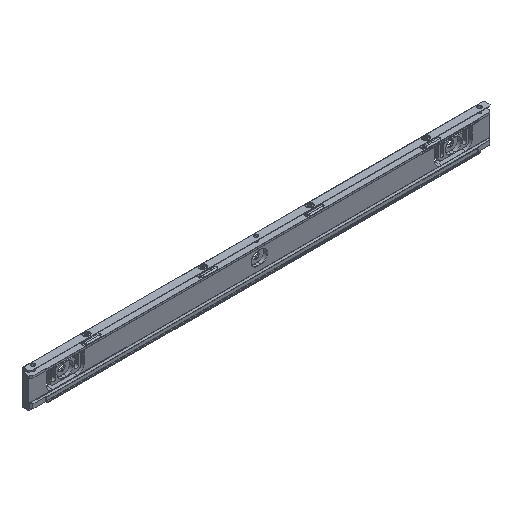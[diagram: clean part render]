
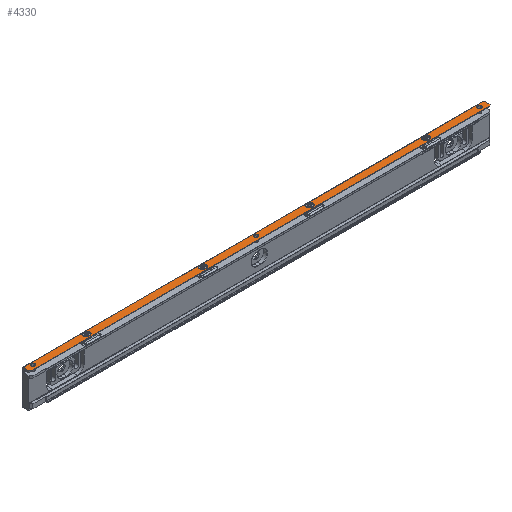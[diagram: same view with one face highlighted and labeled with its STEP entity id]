
A CAD part, isometric view. The second image highlights one B-rep face of the part: STEP entity #4330.
In plain terms, the highlighted planar face has unit normal (0, 0, 1).
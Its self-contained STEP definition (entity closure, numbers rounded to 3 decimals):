
#260=CARTESIAN_POINT('',(-17.266,8.917,
83.483));
#270=VERTEX_POINT('',#260);
#1080=CARTESIAN_POINT('',(-12.734,8.917,
83.483));
#1090=VERTEX_POINT('',#1080);
#1120=CARTESIAN_POINT('',(-15.,6.25,
83.483));
#1130=DIRECTION('',(0.,0.,-1.));
#1140=DIRECTION('',(-1.,0.,0.));
#1150=AXIS2_PLACEMENT_3D('',#1120,#1130,#1140);
#1160=CIRCLE('',#1150,3.5);
#1170=EDGE_CURVE('',#1090,#270,#1160,.T.);
#1470=CARTESIAN_POINT('',(92.734,8.917,
83.483));
#1480=VERTEX_POINT('',#1470);
#2290=CARTESIAN_POINT('',(97.266,8.917,
83.483));
#2300=VERTEX_POINT('',#2290);
#2330=CARTESIAN_POINT('',(95.,6.25,
83.483));
#2340=DIRECTION('',(0.,0.,-1.));
#2350=DIRECTION('',(-1.,0.,0.));
#2360=AXIS2_PLACEMENT_3D('',#2330,#2340,#2350);
#2370=CIRCLE('',#2360,3.5);
#2380=EDGE_CURVE('',#2300,#1480,#2370,.T.);
#2850=CARTESIAN_POINT('',(-5.,10.,
83.483));
#2860=DIRECTION('',(0.,0.,1.));
#2870=DIRECTION('',(0.,1.,0.));
#2880=AXIS2_PLACEMENT_3D('',#2850,#2860,#2870);
#2890=PLANE('',#2880);
#2900=CARTESIAN_POINT('',(40.,6.,
83.483));
#2910=DIRECTION('',(0.,0.,1.));
#2920=DIRECTION('',(0.,1.,0.));
#2930=AXIS2_PLACEMENT_3D('',#2900,#2910,#2920);
#2940=CIRCLE('',#2930,1.9);
#2950=CARTESIAN_POINT('',(41.9,6.,
83.483));
#2960=VERTEX_POINT('',#2950);
#2970=CARTESIAN_POINT('',(38.1,6.,
83.483));
#2980=VERTEX_POINT('',#2970);
#2990=EDGE_CURVE('',#2960,#2980,#2940,.T.);
#3000=ORIENTED_EDGE('',*,*,#2990,.F.);
#3010=EDGE_CURVE('',#2980,#2960,#2940,.T.);
#3020=ORIENTED_EDGE('',*,*,#3010,.F.);
#3030=EDGE_LOOP('',(#3020,#3000));
#3040=FACE_BOUND('',#3030,.T.);
#3050=CARTESIAN_POINT('',(215.,6.25,
83.483));
#3060=DIRECTION('',(0.,0.,-1.));
#3070=DIRECTION('',(-1.,0.,0.));
#3080=AXIS2_PLACEMENT_3D('',#3050,#3060,#3070);
#3090=CIRCLE('',#3080,3.5);
#3100=CARTESIAN_POINT('',(217.266,8.917,
83.483));
#3110=VERTEX_POINT('',#3100);
#3120=CARTESIAN_POINT('',(212.734,8.917,
83.483));
#3130=VERTEX_POINT('',#3120);
#3140=EDGE_CURVE('',#3110,#3130,#3090,.T.);
#3150=ORIENTED_EDGE('',*,*,#3140,.T.);
#3160=CARTESIAN_POINT('',(295.,8.917,83.483));
#3170=DIRECTION('',(-1.,0.,0.));
#3180=VECTOR('',#3170,1.);
#3190=LINE('',#3160,#3180);
#3200=CARTESIAN_POINT('',(277.5,8.917,83.483));
#3210=VERTEX_POINT('',#3200);
#3220=EDGE_CURVE('',#3210,#3110,#3190,.T.);
#3230=ORIENTED_EDGE('',*,*,#3220,.T.);
#3240=CARTESIAN_POINT('',(277.5,8.463,83.483));
#3250=DIRECTION('',(0.,1.,0.));
#3260=VECTOR('',#3250,1.);
#3270=LINE('',#3240,#3260);
#3280=CARTESIAN_POINT('',(277.5,2.75,83.483));
#3290=VERTEX_POINT('',#3280);
#3300=EDGE_CURVE('',#3290,#3210,#3270,.T.);
#3310=ORIENTED_EDGE('',*,*,#3300,.T.);
#3320=CARTESIAN_POINT('',(283.212,8.462,
83.483));
#3330=DIRECTION('',(0.707,0.707,
0.));
#3340=VECTOR('',#3330,1.);
#3350=LINE('',#3320,#3340);
#3360=CARTESIAN_POINT('',(276.2,1.45,
83.483));
#3370=VERTEX_POINT('',#3360);
#3380=EDGE_CURVE('',#3370,#3290,#3350,.T.);
#3390=ORIENTED_EDGE('',*,*,#3380,.T.);
#3400=CARTESIAN_POINT('',(-80.,1.45,
83.483));
#3410=DIRECTION('',(1.,0.,0.));
#3420=VECTOR('',#3410,1.);
#3430=LINE('',#3400,#3420);
#3440=CARTESIAN_POINT('',(-196.2,1.45,
83.483));
#3450=VERTEX_POINT('',#3440);
#3460=EDGE_CURVE('',#3450,#3370,#3430,.T.);
#3470=ORIENTED_EDGE('',*,*,#3460,.T.);
#3480=CARTESIAN_POINT('',(-203.212,8.462,
83.483));
#3490=DIRECTION('',(-0.707,0.707,
0.));
#3500=VECTOR('',#3490,1.);
#3510=LINE('',#3480,#3500);
#3520=CARTESIAN_POINT('',(-197.5,2.75,
83.483));
#3530=VERTEX_POINT('',#3520);
#3540=EDGE_CURVE('',#3450,#3530,#3510,.T.);
#3550=ORIENTED_EDGE('',*,*,#3540,.F.);
#3560=CARTESIAN_POINT('',(-197.5,8.463,
83.483));
#3570=DIRECTION('',(0.,1.,0.));
#3580=VECTOR('',#3570,1.);
#3590=LINE('',#3560,#3580);
#3600=CARTESIAN_POINT('',(-197.5,8.917,
83.483));
#3610=VERTEX_POINT('',#3600);
#3620=EDGE_CURVE('',#3530,#3610,#3590,.T.);
#3630=ORIENTED_EDGE('',*,*,#3620,.F.);
#3640=CARTESIAN_POINT('',(-65.,8.917,
83.483));
#3650=DIRECTION('',(-1.,0.,0.));
#3660=VECTOR('',#3650,1.);
#3670=LINE('',#3640,#3660);
#3680=CARTESIAN_POINT('',(-137.266,8.917,
83.483));
#3690=VERTEX_POINT('',#3680);
#3700=EDGE_CURVE('',#3690,#3610,#3670,.T.);
#3710=ORIENTED_EDGE('',*,*,#3700,.T.);
#3720=CARTESIAN_POINT('',(-135.,6.25,
83.483));
#3730=DIRECTION('',(0.,0.,-1.));
#3740=DIRECTION('',(-1.,0.,0.));
#3750=AXIS2_PLACEMENT_3D('',#3720,#3730,#3740);
#3760=CIRCLE('',#3750,3.5);
#3770=CARTESIAN_POINT('',(-132.734,8.917,
83.483));
#3780=VERTEX_POINT('',#3770);
#3790=EDGE_CURVE('',#3780,#3690,#3760,.T.);
#3800=ORIENTED_EDGE('',*,*,#3790,.T.);
#3810=CARTESIAN_POINT('',(5.,8.917,
83.483));
#3820=DIRECTION('',(-1.,0.,0.));
#3830=VECTOR('',#3820,1.);
#3840=LINE('',#3810,#3830);
#3850=EDGE_CURVE('',#270,#3780,#3840,.T.);
#3860=ORIENTED_EDGE('',*,*,#3850,.T.);
#3870=ORIENTED_EDGE('',*,*,#1170,.T.);
#3880=CARTESIAN_POINT('',(65.,8.917,
83.483));
#3890=DIRECTION('',(-1.,0.,0.));
#3900=VECTOR('',#3890,1.);
#3910=LINE('',#3880,#3900);
#3920=EDGE_CURVE('',#1480,#1090,#3910,.T.);
#3930=ORIENTED_EDGE('',*,*,#3920,.T.);
#3940=ORIENTED_EDGE('',*,*,#2380,.T.);
#3950=CARTESIAN_POINT('',(175.,8.917,83.483));
#3960=DIRECTION('',(-1.,0.,0.));
#3970=VECTOR('',#3960,1.);
#3980=LINE('',#3950,#3970);
#3990=EDGE_CURVE('',#3130,#2300,#3980,.T.);
#4000=ORIENTED_EDGE('',*,*,#3990,.T.);
#4010=EDGE_LOOP('',(#4000,#3940,#3930,#3870,#3860,#3800,#3710,#3630,
#3550,#3470,#3390,#3310,#3230,#3150));
#4020=FACE_OUTER_BOUND('',#4010,.T.);
#4030=CARTESIAN_POINT('',(-190.,6.,
83.483));
#4040=DIRECTION('',(0.,0.,1.));
#4050=DIRECTION('',(0.,1.,0.));
#4060=AXIS2_PLACEMENT_3D('',#4030,#4040,#4050);
#4070=CIRCLE('',#4060,1.9);
#4080=CARTESIAN_POINT('',(-188.1,6.,
83.483));
#4090=VERTEX_POINT('',#4080);
#4100=CARTESIAN_POINT('',(-191.9,6.,
83.483));
#4110=VERTEX_POINT('',#4100);
#4120=EDGE_CURVE('',#4090,#4110,#4070,.T.);
#4130=ORIENTED_EDGE('',*,*,#4120,.F.);
#4140=EDGE_CURVE('',#4110,#4090,#4070,.T.);
#4150=ORIENTED_EDGE('',*,*,#4140,.F.);
#4160=EDGE_LOOP('',(#4150,#4130));
#4170=FACE_BOUND('',#4160,.T.);
#4180=CARTESIAN_POINT('',(270.,6.,83.483));
#4190=DIRECTION('',(0.,0.,1.));
#4200=DIRECTION('',(0.,1.,0.));
#4210=AXIS2_PLACEMENT_3D('',#4180,#4190,#4200);
#4220=CIRCLE('',#4210,1.9);
#4230=CARTESIAN_POINT('',(271.9,6.,83.483));
#4240=VERTEX_POINT('',#4230);
#4250=CARTESIAN_POINT('',(268.1,6.,83.483));
#4260=VERTEX_POINT('',#4250);
#4270=EDGE_CURVE('',#4240,#4260,#4220,.T.);
#4280=ORIENTED_EDGE('',*,*,#4270,.F.);
#4290=EDGE_CURVE('',#4260,#4240,#4220,.T.);
#4300=ORIENTED_EDGE('',*,*,#4290,.F.);
#4310=EDGE_LOOP('',(#4300,#4280));
#4320=FACE_BOUND('',#4310,.T.);
#4330=ADVANCED_FACE('',(#3040,#4020,#4170,#4320),#2890,.T.);
